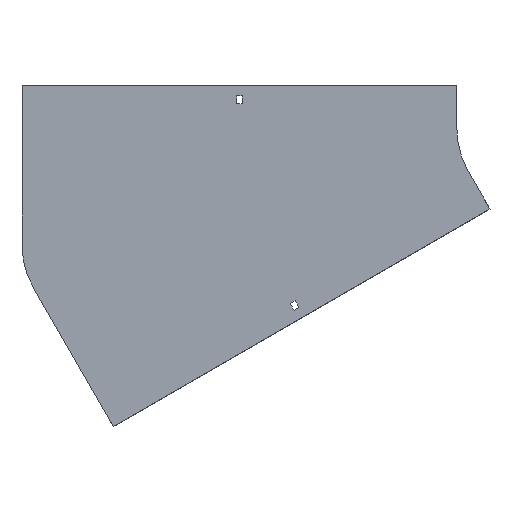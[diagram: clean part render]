
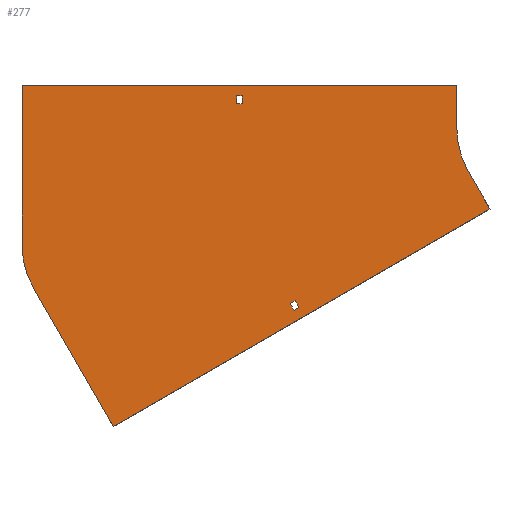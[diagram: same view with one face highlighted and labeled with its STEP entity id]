
A CAD part, front view. The second image highlights one B-rep face of the part: STEP entity #277.
In plain terms, the highlighted planar face has unit normal (0, -1, 0).
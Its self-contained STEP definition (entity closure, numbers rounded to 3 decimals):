
#17 = CARTESIAN_POINT ( 'NONE',  ( -355.25, 0., 29. ) ) ;
#18 = EDGE_LOOP ( 'NONE', ( #796, #309, #1166, #1286, #226, #614, #140, #64 ) ) ;
#31 = EDGE_LOOP ( 'NONE', ( #888, #945, #496, #1294 ) ) ;
#34 = LINE ( 'NONE', #464, #1139 ) ;
#56 = CARTESIAN_POINT ( 'NONE',  ( -498.079, 0., -345.301 ) ) ;
#63 = DIRECTION ( 'NONE',  ( 1., 0., 0. ) ) ;
#64 = ORIENTED_EDGE ( 'NONE', *, *, #1239, .F. ) ;
#66 = ORIENTED_EDGE ( 'NONE', *, *, #333, .T. ) ;
#74 = CARTESIAN_POINT ( 'NONE',  ( -604., 0., 50. ) ) ;
#91 = LINE ( 'NONE', #1374, #1217 ) ;
#94 = VERTEX_POINT ( 'NONE', #950 ) ;
#102 = LINE ( 'NONE', #1168, #152 ) ;
#140 = ORIENTED_EDGE ( 'NONE', *, *, #649, .F. ) ;
#145 = CARTESIAN_POINT ( 'NONE',  ( -604., 0., 50. ) ) ;
#152 = VECTOR ( 'NONE', #1199, 1000. ) ;
#186 = CARTESIAN_POINT ( 'NONE',  ( -86.603, 0., -50. ) ) ;
#187 = CARTESIAN_POINT ( 'NONE',  ( -355.25, 0., 38. ) ) ;
#193 = DIRECTION ( 'NONE',  ( 1., 0., 0. ) ) ;
#194 = CARTESIAN_POINT ( 'NONE',  ( -86.603, 0., -50. ) ) ;
#203 = EDGE_CURVE ( 'NONE', #1110, #477, #474, .T. ) ;
#217 = VERTEX_POINT ( 'NONE', #795 ) ;
#224 = DIRECTION ( 'NONE',  ( 0., 0., 1. ) ) ;
#226 = ORIENTED_EDGE ( 'NONE', *, *, #578, .F. ) ;
#241 = LINE ( 'NONE', #17, #788 ) ;
#258 = VECTOR ( 'NONE', #193, 1000. ) ;
#277 = ADVANCED_FACE ( 'NONE', ( #600, #505, #515 ), #293, .T. ) ;
#281 = LINE ( 'NONE', #56, #1253 ) ;
#286 = VECTOR ( 'NONE', #355, 1000. ) ;
#292 = DIRECTION ( 'NONE',  ( 0.5, 0., -0.866 ) ) ;
#293 = PLANE ( 'NONE',  #1063 ) ;
#309 = ORIENTED_EDGE ( 'NONE', *, *, #530, .F. ) ;
#312 = VERTEX_POINT ( 'NONE', #936 ) ;
#324 = VERTEX_POINT ( 'NONE', #1281 ) ;
#329 = LINE ( 'NONE', #755, #286 ) ;
#333 = EDGE_CURVE ( 'NONE', #368, #1015, #1156, .T. ) ;
#351 = VECTOR ( 'NONE', #63, 1000. ) ;
#355 = DIRECTION ( 'NONE',  ( -0.866, 0., -0.5 ) ) ;
#358 = DIRECTION ( 'NONE',  ( -1., 0., 0. ) ) ;
#368 = VERTEX_POINT ( 'NONE', #187 ) ;
#380 = EDGE_CURVE ( 'NONE', #477, #446, #91, .T. ) ;
#391 = VERTEX_POINT ( 'NONE', #194 ) ;
#399 = CARTESIAN_POINT ( 'NONE',  ( -100., 0., 50. ) ) ;
#407 = DIRECTION ( 'NONE',  ( 0., -1., 0. ) ) ;
#412 = LINE ( 'NONE', #399, #767 ) ;
#422 = CARTESIAN_POINT ( 'NONE',  ( -355.25, 0., 38. ) ) ;
#424 = DIRECTION ( 'NONE',  ( 0., -1., 0. ) ) ;
#444 = CIRCLE ( 'NONE', #886, 100. ) ;
#446 = VERTEX_POINT ( 'NONE', #612 ) ;
#464 = CARTESIAN_POINT ( 'NONE',  ( -287.526, 0., -199.49 ) ) ;
#465 = VERTEX_POINT ( 'NONE', #802 ) ;
#474 = LINE ( 'NONE', #875, #1079 ) ;
#477 = VERTEX_POINT ( 'NONE', #493 ) ;
#482 = LINE ( 'NONE', #782, #1003 ) ;
#493 = CARTESIAN_POINT ( 'NONE',  ( -288.656, 0., -210.534 ) ) ;
#495 = DIRECTION ( 'NONE',  ( -0.5, 0., 0.866 ) ) ;
#496 = ORIENTED_EDGE ( 'NONE', *, *, #1026, .F. ) ;
#505 = FACE_OUTER_BOUND ( 'NONE', #18, .T. ) ;
#506 = VERTEX_POINT ( 'NONE', #927 ) ;
#515 = FACE_BOUND ( 'NONE', #31, .T. ) ;
#530 = EDGE_CURVE ( 'NONE', #217, #1072, #1371, .T. ) ;
#550 = CARTESIAN_POINT ( 'NONE',  ( -348.75, 0., 38. ) ) ;
#578 = EDGE_CURVE ( 'NONE', #465, #312, #102, .T. ) ;
#600 = FACE_BOUND ( 'NONE', #1200, .T. ) ;
#608 = CARTESIAN_POINT ( 'NONE',  ( -604., 0., -135.046 ) ) ;
#611 = VERTEX_POINT ( 'NONE', #851 ) ;
#612 = CARTESIAN_POINT ( 'NONE',  ( -283.026, 0., -207.284 ) ) ;
#614 = ORIENTED_EDGE ( 'NONE', *, *, #1233, .F. ) ;
#620 = CARTESIAN_POINT ( 'NONE',  ( -287.526, 0., -199.49 ) ) ;
#628 = EDGE_CURVE ( 'NONE', #94, #217, #765, .T. ) ;
#649 = EDGE_CURVE ( 'NONE', #611, #391, #444, .T. ) ;
#655 = EDGE_CURVE ( 'NONE', #324, #506, #241, .T. ) ;
#685 = ORIENTED_EDGE ( 'NONE', *, *, #917, .T. ) ;
#706 = CARTESIAN_POINT ( 'NONE',  ( -100., 0., 50. ) ) ;
#723 = VECTOR ( 'NONE', #224, 1000. ) ;
#739 = EDGE_CURVE ( 'NONE', #446, #994, #34, .T. ) ;
#748 = DIRECTION ( 'NONE',  ( 0., 1., 0. ) ) ;
#755 = CARTESIAN_POINT ( 'NONE',  ( -293.156, 0., -202.74 ) ) ;
#765 = CIRCLE ( 'NONE', #1042, 100. ) ;
#767 = VECTOR ( 'NONE', #821, 1000. ) ;
#777 = CARTESIAN_POINT ( 'NONE',  ( -355.25, 0., 29. ) ) ;
#782 = CARTESIAN_POINT ( 'NONE',  ( -348.75, 0., 29. ) ) ;
#788 = VECTOR ( 'NONE', #358, 1000. ) ;
#795 = CARTESIAN_POINT ( 'NONE',  ( -604., 0., -135.046 ) ) ;
#796 = ORIENTED_EDGE ( 'NONE', *, *, #1295, .F. ) ;
#802 = CARTESIAN_POINT ( 'NONE',  ( -61.603, 0., -93.301 ) ) ;
#821 = DIRECTION ( 'NONE',  ( 0., 0., -1. ) ) ;
#836 = CARTESIAN_POINT ( 'NONE',  ( 0., 0., 0. ) ) ;
#851 = CARTESIAN_POINT ( 'NONE',  ( -100., 0., 0. ) ) ;
#875 = CARTESIAN_POINT ( 'NONE',  ( -293.156, 0., -202.74 ) ) ;
#886 = AXIS2_PLACEMENT_3D ( 'NONE', #1392, #424, #1109 ) ;
#888 = ORIENTED_EDGE ( 'NONE', *, *, #380, .F. ) ;
#896 = LINE ( 'NONE', #777, #723 ) ;
#909 = VECTOR ( 'NONE', #913, 1000. ) ;
#913 = DIRECTION ( 'NONE',  ( 0., 0., 1. ) ) ;
#917 = EDGE_CURVE ( 'NONE', #506, #368, #896, .T. ) ;
#927 = CARTESIAN_POINT ( 'NONE',  ( -355.25, 0., 29. ) ) ;
#936 = CARTESIAN_POINT ( 'NONE',  ( -498.079, 0., -345.301 ) ) ;
#945 = ORIENTED_EDGE ( 'NONE', *, *, #203, .F. ) ;
#950 = CARTESIAN_POINT ( 'NONE',  ( -590.603, 0., -185.046 ) ) ;
#992 = DIRECTION ( 'NONE',  ( -0.5, 0., 0.866 ) ) ;
#994 = VERTEX_POINT ( 'NONE', #620 ) ;
#995 = DIRECTION ( 'NONE',  ( 0.5, 0., -0.866 ) ) ;
#1003 = VECTOR ( 'NONE', #1362, 1000. ) ;
#1015 = VERTEX_POINT ( 'NONE', #550 ) ;
#1026 = EDGE_CURVE ( 'NONE', #994, #1110, #329, .T. ) ;
#1042 = AXIS2_PLACEMENT_3D ( 'NONE', #1060, #748, #1268 ) ;
#1060 = CARTESIAN_POINT ( 'NONE',  ( -504., 0., -135.046 ) ) ;
#1063 = AXIS2_PLACEMENT_3D ( 'NONE', #836, #407, #1369 ) ;
#1072 = VERTEX_POINT ( 'NONE', #145 ) ;
#1079 = VECTOR ( 'NONE', #995, 1000. ) ;
#1109 = DIRECTION ( 'NONE',  ( 0., 0., -1. ) ) ;
#1110 = VERTEX_POINT ( 'NONE', #1228 ) ;
#1129 = EDGE_CURVE ( 'NONE', #312, #94, #281, .T. ) ;
#1130 = VERTEX_POINT ( 'NONE', #706 ) ;
#1139 = VECTOR ( 'NONE', #992, 1000. ) ;
#1140 = ORIENTED_EDGE ( 'NONE', *, *, #655, .T. ) ;
#1156 = LINE ( 'NONE', #422, #351 ) ;
#1166 = ORIENTED_EDGE ( 'NONE', *, *, #628, .F. ) ;
#1168 = CARTESIAN_POINT ( 'NONE',  ( -61.603, 0., -93.301 ) ) ;
#1199 = DIRECTION ( 'NONE',  ( -0.866, 0., -0.5 ) ) ;
#1200 = EDGE_LOOP ( 'NONE', ( #685, #66, #1360, #1140 ) ) ;
#1209 = EDGE_CURVE ( 'NONE', #1015, #324, #482, .T. ) ;
#1217 = VECTOR ( 'NONE', #1273, 1000. ) ;
#1228 = CARTESIAN_POINT ( 'NONE',  ( -293.156, 0., -202.74 ) ) ;
#1233 = EDGE_CURVE ( 'NONE', #391, #465, #1380, .T. ) ;
#1239 = EDGE_CURVE ( 'NONE', #1130, #611, #412, .T. ) ;
#1253 = VECTOR ( 'NONE', #495, 1000. ) ;
#1268 = DIRECTION ( 'NONE',  ( 0., 0., 1. ) ) ;
#1273 = DIRECTION ( 'NONE',  ( 0.866, 0., 0.5 ) ) ;
#1281 = CARTESIAN_POINT ( 'NONE',  ( -348.75, 0., 29. ) ) ;
#1286 = ORIENTED_EDGE ( 'NONE', *, *, #1129, .F. ) ;
#1294 = ORIENTED_EDGE ( 'NONE', *, *, #739, .F. ) ;
#1295 = EDGE_CURVE ( 'NONE', #1072, #1130, #1373, .T. ) ;
#1360 = ORIENTED_EDGE ( 'NONE', *, *, #1209, .T. ) ;
#1362 = DIRECTION ( 'NONE',  ( 0., 0., -1. ) ) ;
#1369 = DIRECTION ( 'NONE',  ( 0., 0., -1. ) ) ;
#1371 = LINE ( 'NONE', #608, #909 ) ;
#1373 = LINE ( 'NONE', #74, #258 ) ;
#1374 = CARTESIAN_POINT ( 'NONE',  ( -288.656, 0., -210.534 ) ) ;
#1380 = LINE ( 'NONE', #186, #1389 ) ;
#1389 = VECTOR ( 'NONE', #292, 1000. ) ;
#1392 = CARTESIAN_POINT ( 'NONE',  ( 0., 0., 0. ) ) ;
